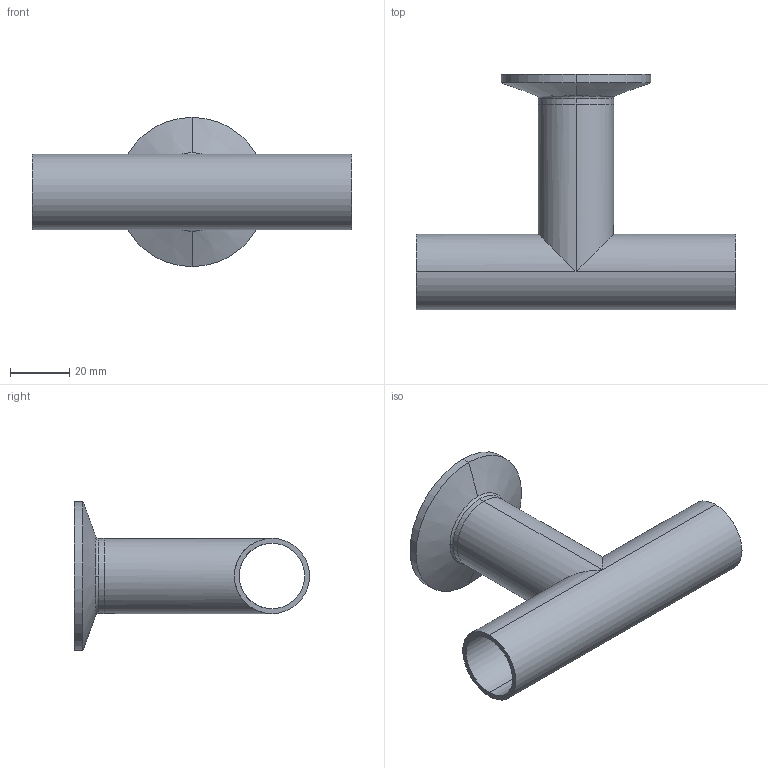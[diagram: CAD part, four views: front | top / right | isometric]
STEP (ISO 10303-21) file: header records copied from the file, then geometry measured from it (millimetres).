
FILE_DESCRIPTION (( 'STEP AP214' ), '1' );
FILE_NAME ('TE7WWC6L1.0-...STEP', '2016-05-23T05:34:36', ( 'eran' ), ( '' ), 'SwSTEP 2.0', 'SolidWorks 2016', '' );
FILE_SCHEMA (( 'AUTOMOTIVE_DESIGN' ));
Length unit declared in the file: millimetre
Products named in the file (1): TE7WWC6L1.0-..
Bounding box: 108 x 79.38 x 50.39 mm (x, y, z)
Volume: 26712.7 mm3; surface area: 27401.6 mm2
Topology: 2 solids, 2 shells, 38 faces, 92 edges, 58 vertices
Faces by surface type: cylinder 16, bspline 10, plane 6, cone 6
Entity records: 1687 total; most frequent: CARTESIAN_POINT 753, DIRECTION 198, ORIENTED_EDGE 184, EDGE_CURVE 92, AXIS2_PLACEMENT_3D 87, VERTEX_POINT 58, CIRCLE 58, EDGE_LOOP 44
